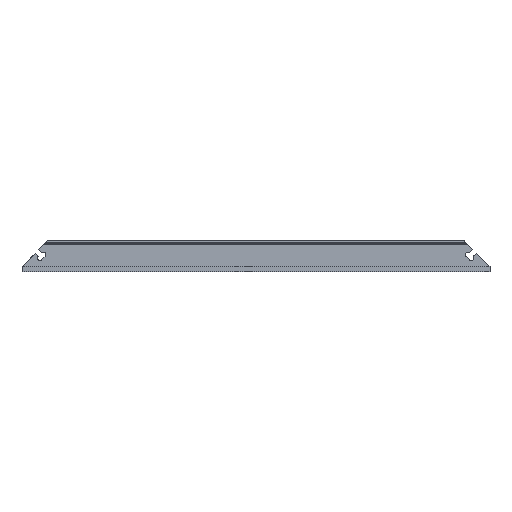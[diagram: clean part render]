
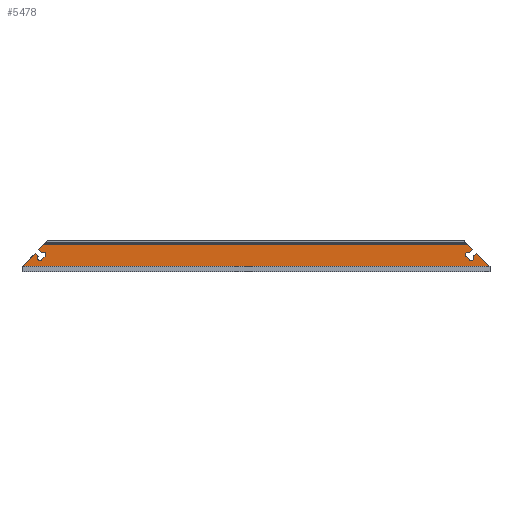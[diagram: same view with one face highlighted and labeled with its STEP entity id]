
A CAD part, left-side view. The second image highlights one B-rep face of the part: STEP entity #5478.
In plain terms, the highlighted planar face has unit normal (-1, 0, 0).
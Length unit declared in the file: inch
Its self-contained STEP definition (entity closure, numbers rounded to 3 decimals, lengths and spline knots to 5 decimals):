
#432=CIRCLE('',#5962,0.1875);
#433=CIRCLE('',#5963,0.1875);
#434=CIRCLE('',#5964,0.1875);
#435=CIRCLE('',#5965,0.1875);
#695=FACE_OUTER_BOUND('',#986,.T.);
#986=EDGE_LOOP('',(#4598,#4599,#4600,#4601,#4602,#4603,#4604,#4605,#4606,
#4607,#4608,#4609,#4610,#4611,#4612,#4613,#4614));
#1360=LINE('',#9500,#1883);
#1366=LINE('',#9517,#1889);
#1380=LINE('',#9555,#1903);
#1415=LINE('',#9660,#1938);
#1440=LINE('',#9741,#1963);
#1441=LINE('',#9744,#1964);
#1442=LINE('',#9748,#1965);
#1443=LINE('',#9752,#1966);
#1444=LINE('',#9754,#1967);
#1445=LINE('',#9755,#1968);
#1446=LINE('',#9757,#1969);
#1447=LINE('',#9761,#1970);
#1448=LINE('',#9764,#1971);
#1883=VECTOR('',#7015,36.);
#1889=VECTOR('',#7027,32.5805);
#1903=VECTOR('',#7063,1.49956);
#1938=VECTOR('',#7170,0.58859);
#1963=VECTOR('',#7269,0.57167);
#1964=VECTOR('',#7272,0.33065);
#1965=VECTOR('',#7275,0.375);
#1966=VECTOR('',#7278,0.33065);
#1967=VECTOR('',#7279,1.42607);
#1968=VECTOR('',#7280,0.04);
#1969=VECTOR('',#7281,0.34743);
#1970=VECTOR('',#7284,0.375);
#1971=VECTOR('',#7287,0.34743);
#2453=VERTEX_POINT('',#9497);
#2454=VERTEX_POINT('',#9499);
#2461=VERTEX_POINT('',#9514);
#2462=VERTEX_POINT('',#9516);
#2475=VERTEX_POINT('',#9553);
#2509=VERTEX_POINT('',#9658);
#2528=VERTEX_POINT('',#9739);
#2529=VERTEX_POINT('',#9743);
#2530=VERTEX_POINT('',#9745);
#2531=VERTEX_POINT('',#9747);
#2532=VERTEX_POINT('',#9749);
#2533=VERTEX_POINT('',#9751);
#2534=VERTEX_POINT('',#9753);
#2535=VERTEX_POINT('',#9756);
#2536=VERTEX_POINT('',#9758);
#2537=VERTEX_POINT('',#9760);
#2538=VERTEX_POINT('',#9762);
#3154=EDGE_CURVE('',#2453,#2454,#1360,.T.);
#3162=EDGE_CURVE('',#2462,#2461,#1366,.T.);
#3181=EDGE_CURVE('',#2453,#2475,#1380,.T.);
#3235=EDGE_CURVE('',#2461,#2509,#1415,.T.);
#3277=EDGE_CURVE('',#2528,#2462,#1440,.T.);
#3278=EDGE_CURVE('',#2509,#2529,#1441,.T.);
#3279=EDGE_CURVE('',#2529,#2530,#432,.T.);
#3280=EDGE_CURVE('',#2530,#2531,#1442,.T.);
#3281=EDGE_CURVE('',#2531,#2532,#433,.T.);
#3282=EDGE_CURVE('',#2532,#2533,#1443,.T.);
#3283=EDGE_CURVE('',#2533,#2534,#1444,.T.);
#3284=EDGE_CURVE('',#2454,#2534,#1445,.T.);
#3285=EDGE_CURVE('',#2475,#2535,#1446,.T.);
#3286=EDGE_CURVE('',#2535,#2536,#434,.T.);
#3287=EDGE_CURVE('',#2536,#2537,#1447,.T.);
#3288=EDGE_CURVE('',#2537,#2538,#435,.T.);
#3289=EDGE_CURVE('',#2538,#2528,#1448,.T.);
#4598=ORIENTED_EDGE('',*,*,#3278,.T.);
#4599=ORIENTED_EDGE('',*,*,#3279,.T.);
#4600=ORIENTED_EDGE('',*,*,#3280,.T.);
#4601=ORIENTED_EDGE('',*,*,#3281,.T.);
#4602=ORIENTED_EDGE('',*,*,#3282,.T.);
#4603=ORIENTED_EDGE('',*,*,#3283,.T.);
#4604=ORIENTED_EDGE('',*,*,#3284,.F.);
#4605=ORIENTED_EDGE('',*,*,#3154,.F.);
#4606=ORIENTED_EDGE('',*,*,#3181,.T.);
#4607=ORIENTED_EDGE('',*,*,#3285,.T.);
#4608=ORIENTED_EDGE('',*,*,#3286,.T.);
#4609=ORIENTED_EDGE('',*,*,#3287,.T.);
#4610=ORIENTED_EDGE('',*,*,#3288,.T.);
#4611=ORIENTED_EDGE('',*,*,#3289,.T.);
#4612=ORIENTED_EDGE('',*,*,#3277,.T.);
#4613=ORIENTED_EDGE('',*,*,#3162,.T.);
#4614=ORIENTED_EDGE('',*,*,#3235,.T.);
#5228=PLANE('',#5961);
#5478=ADVANCED_FACE('',(#695),#5228,.T.);
#5961=AXIS2_PLACEMENT_3D('',#9742,#7270,#7271);
#5962=AXIS2_PLACEMENT_3D('',#9746,#7273,#7274);
#5963=AXIS2_PLACEMENT_3D('',#9750,#7276,#7277);
#5964=AXIS2_PLACEMENT_3D('',#9759,#7282,#7283);
#5965=AXIS2_PLACEMENT_3D('',#9763,#7285,#7286);
#7015=DIRECTION('',(0.,1.,0.));
#7027=DIRECTION('',(0.,1.,0.));
#7063=DIRECTION('',(0.,0.707,0.707));
#7170=DIRECTION('',(0.,0.707,-0.707));
#7269=DIRECTION('',(0.,0.707,0.707));
#7270=DIRECTION('center_axis',(-1.,0.,0.));
#7271=DIRECTION('ref_axis',(0.,0.,1.));
#7272=DIRECTION('',(0.,-0.707,-0.707));
#7273=DIRECTION('center_axis',(1.,0.,0.));
#7274=DIRECTION('ref_axis',(0.,-0.707,-0.707));
#7275=DIRECTION('',(0.,0.707,-0.707));
#7276=DIRECTION('center_axis',(1.,0.,0.));
#7277=DIRECTION('ref_axis',(0.,0.707,0.707));
#7278=DIRECTION('',(0.,0.707,0.707));
#7279=DIRECTION('',(0.,0.707,-0.707));
#7280=DIRECTION('',(0.,0.,1.));
#7281=DIRECTION('',(0.,0.707,-0.707));
#7282=DIRECTION('center_axis',(1.,0.,0.));
#7283=DIRECTION('ref_axis',(0.,-0.707,0.707));
#7284=DIRECTION('',(0.,0.707,0.707));
#7285=DIRECTION('center_axis',(1.,0.,0.));
#7286=DIRECTION('ref_axis',(0.,0.707,-0.707));
#7287=DIRECTION('',(0.,-0.707,0.707));
#9497=CARTESIAN_POINT('',(-0.67137,0.,0.35966));
#9499=CARTESIAN_POINT('',(-0.67137,36.,0.35966));
#9500=CARTESIAN_POINT('',(-0.67137,0.,0.35966));
#9514=CARTESIAN_POINT('',(-0.67137,34.31025,2.08941));
#9516=CARTESIAN_POINT('',(-0.67137,1.72975,2.08941));
#9517=CARTESIAN_POINT('',(-0.67137,0.,2.08941));
#9553=CARTESIAN_POINT('',(-0.67137,1.06035,1.42001));
#9555=CARTESIAN_POINT('',(-0.67137,0.,0.35966));
#9658=CARTESIAN_POINT('',(-0.67137,34.72645,1.67321));
#9660=CARTESIAN_POINT('',(-0.67137,25.7767,10.62296));
#9739=CARTESIAN_POINT('',(-0.67137,1.32552,1.68517));
#9741=CARTESIAN_POINT('',(-0.67137,0.,0.35966));
#9742=CARTESIAN_POINT('Origin',(-0.67137,0.,0.35966));
#9743=CARTESIAN_POINT('',(-0.67137,34.49264,1.4394));
#9744=CARTESIAN_POINT('',(-0.67137,25.71645,-7.33679));
#9745=CARTESIAN_POINT('',(-0.67137,34.22748,1.17424));
#9746=CARTESIAN_POINT('Origin',(-0.67137,34.36006,1.30682));
#9747=CARTESIAN_POINT('',(-0.67137,34.49264,0.90907));
#9748=CARTESIAN_POINT('',(-0.67137,25.87425,9.52746));
#9749=CARTESIAN_POINT('',(-0.67137,34.75781,1.17424));
#9750=CARTESIAN_POINT('Origin',(-0.67137,34.62523,1.04166));
#9751=CARTESIAN_POINT('',(-0.67137,34.99161,1.40804));
#9752=CARTESIAN_POINT('',(-0.67137,25.86471,-7.71886));
#9753=CARTESIAN_POINT('',(-0.67137,36.,0.39966));
#9754=CARTESIAN_POINT('',(-0.67137,25.7767,10.62296));
#9755=CARTESIAN_POINT('',(-0.67137,36.,0.35966));
#9756=CARTESIAN_POINT('',(-0.67137,1.30602,1.17434));
#9757=CARTESIAN_POINT('',(-0.67137,1.06035,1.42001));
#9758=CARTESIAN_POINT('',(-0.67137,1.57118,0.90918));
#9759=CARTESIAN_POINT('Origin',(-0.67137,1.4386,1.04176));
#9760=CARTESIAN_POINT('',(-0.67137,1.83635,1.17434));
#9761=CARTESIAN_POINT('',(-0.67137,1.04101,0.379));
#9762=CARTESIAN_POINT('',(-0.67137,1.57118,1.43951));
#9763=CARTESIAN_POINT('Origin',(-0.67137,1.70377,1.30692));
#9764=CARTESIAN_POINT('',(-0.67137,1.44835,1.56234));
